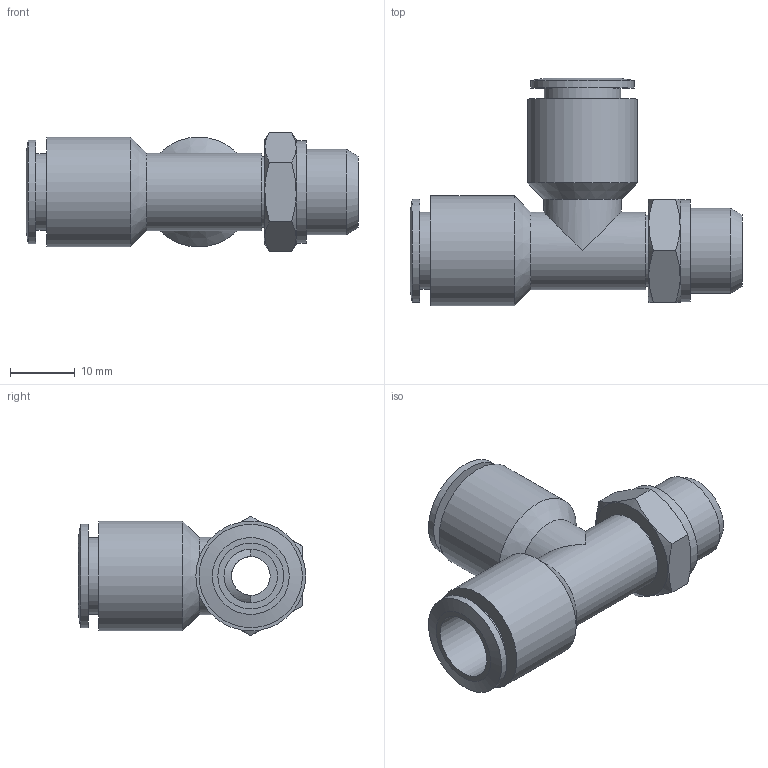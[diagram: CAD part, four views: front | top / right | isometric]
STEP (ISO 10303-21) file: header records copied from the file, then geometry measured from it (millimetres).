
FILE_DESCRIPTION((''),'2;1');
FILE_NAME('C:\Documents and Settings\rivolro1\Documenti\copia di Raccordi\PLASTICA\T21XXXX\T211014.stp','2007-11-02T08:39:54',('Rivolro1'),(''),'Autodesk Inventor 2008','Autodesk Inventor 2008','');
FILE_SCHEMA(('AUTOMOTIVE_DESIGN { 1 0 10303 214 1 1 1 1 }'));
Length unit declared in the file: millimetre
Products named in the file (1): T211014
Bounding box: 51.4 x 35.2 x 18.48 mm (x, y, z)
Volume: 8279.6 mm3; surface area: 6532 mm2
Topology: 1 solids, 1 shells, 51 faces, 102 edges, 65 vertices
Faces by surface type: cylinder 19, plane 19, cone 8, bspline 5
Full cylindrical faces by diameter (mm): 6 x1, 8.3 x2, 11 x1, 11.2 x1, 11.9 x2, 12 x2, 13.2 x1, 15.8 x1, 16 x2, 17 x2
Entity records: 1441 total; most frequent: CARTESIAN_POINT 437, DIRECTION 192, ORIENTED_EDGE 142, AXIS2_PLACEMENT_3D 91, EDGE_LOOP 90, EDGE_CURVE 71, VERTEX_POINT 59, FACE_OUTER_BOUND 51
